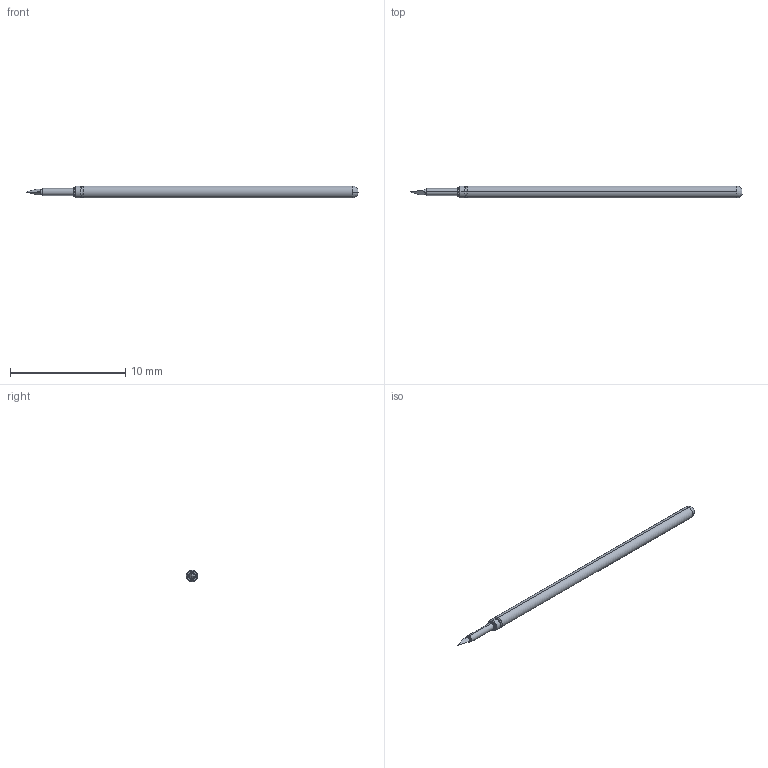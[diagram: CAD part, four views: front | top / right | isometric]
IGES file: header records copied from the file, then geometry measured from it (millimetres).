
Start section: SolidWorks IGES file using analytic representation for surfaces
Global section: file name: Z:\probe solid model mockups\Solidworks models\Parts\LFRE-1T1 RECD.IGS; native system: SolidWorks 2016; preprocessor: SolidWorks 2016; author: mlee; date: 180927.163914; units: inch
Bounding box: 28.78 x 1.02 x 1.02 mm (x, y, z)
Surface area: 85.9 mm2 (no closed solid volume)
Topology: 0 solids, 0 shells, 28 faces, 178 edges, 178 vertices
Faces by surface type: revolution 16, bspline 12
